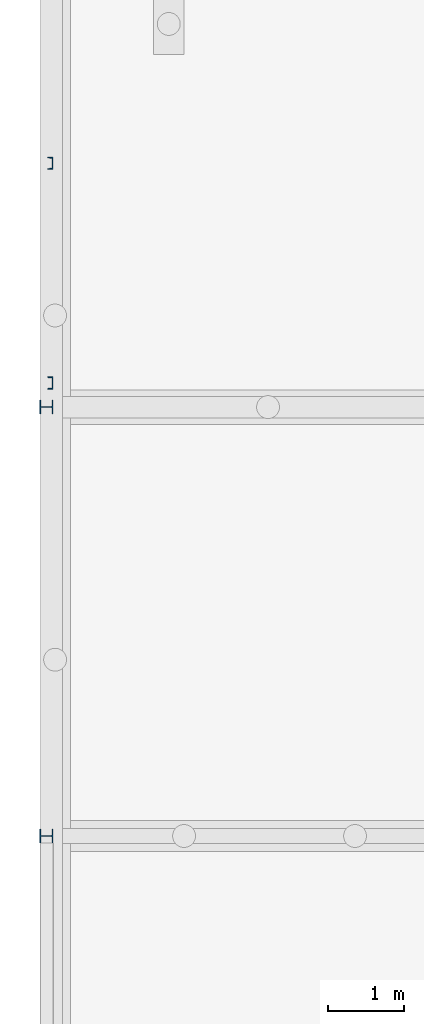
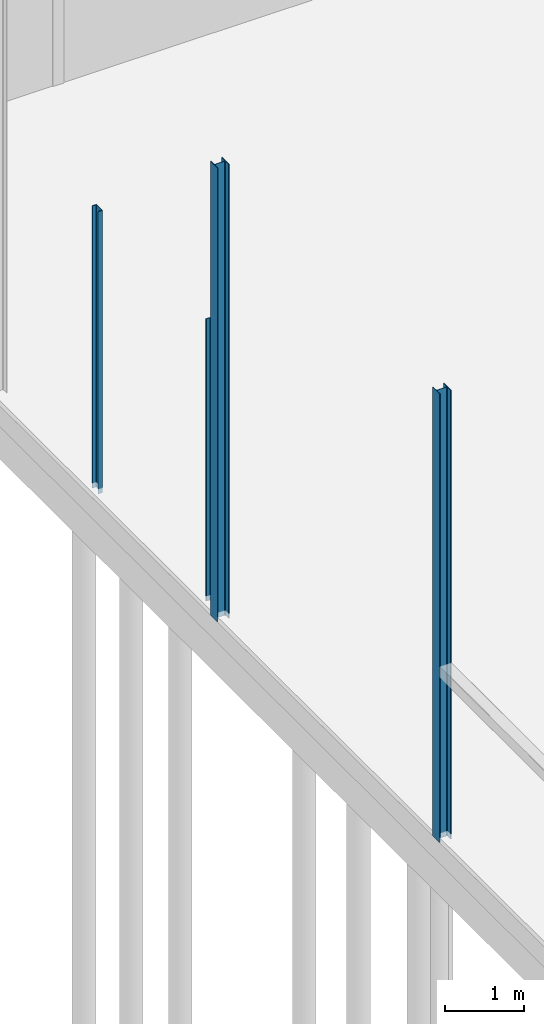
# One storey, part 5 of 17: 4 columns.
"""IFC2X3 building model written with IfcOpenShell, lengths in millimetres."""

import ifcopenshell
import ifcopenshell.guid

model = None  # the IFC model being written
_history = None  # IfcOwnerHistory: only IFC2X3 demands one
_inside = {}  # id of a spatial element -> (the spatial element, [elements in it])
_under = {}  # id of a project, library or spatial element -> (it, [spatial elements below it])
_declared = {}  # id of a project -> (the project, [libraries it declares])
_typed = {}  # id of a type object -> (the type object, [elements of that type])
_made_of = {}  # id of a material, layer set ... -> (it, [elements and type objects made of it])


def new_model(schema):
    """Start an empty IFC model of exactly this schema.

    Asked for "IFC4X3", IfcOpenShell would pick the latest addendum, in which some entities
    have other attributes; the version numbers below select the first issue.
    IFC2X3 requires an IfcOwnerHistory on every rooted entity: one is made here for all.
    """
    global model, _history
    if schema == "IFC4X3":
        model = ifcopenshell.file(schema_version=(4, 3, 0, 0))
    else:
        model = ifcopenshell.file(schema=schema)
    _inside.clear()
    _under.clear()
    _declared.clear()
    _typed.clear()
    _made_of.clear()
    _history = None
    if model.schema == "IFC2X3":
        org = make("IfcOrganization", Name="unknown")
        user = make(
            "IfcPersonAndOrganization",
            ThePerson=make("IfcPerson", FamilyName="unknown"),
            TheOrganization=org,
        )
        app = make(
            "IfcApplication",
            ApplicationDeveloper=org,
            Version="unknown",
            ApplicationFullName="unknown",
            ApplicationIdentifier="unknown",
        )
        _history = make(
            "IfcOwnerHistory",
            OwningUser=user,
            OwningApplication=app,
            ChangeAction="ADDED",
            CreationDate=0,
        )
    return model


def make(cls, **values):
    """One entity of the class cls with the attributes given. An attribute that is None is left unset."""
    return model.create_entity(
        cls, **{name: value for name, value in values.items() if value is not None}
    )


def entity(cls, *values):
    """Any entity or typed value of the class cls, its attributes in the order of the schema. None: left unset."""
    e = model.create_entity(cls)
    for i, value in enumerate(values):
        if value is not None:
            e[i] = value
    return e


def rooted(cls, **values):
    """An entity with a GlobalId (a new one), such as an element, a storey or a relation."""
    return make(cls, GlobalId=ifcopenshell.guid.new(), OwnerHistory=_history, **values)


def si_unit(unit_type, name, prefix=None):
    """IfcSIUnit, for example si_unit("LENGTHUNIT", "METRE", prefix="MILLI")."""
    return make("IfcSIUnit", UnitType=unit_type, Prefix=prefix, Name=name)


def converted_unit(unit_type, name, factor, base, dimensions=None, offset=None):
    """IfcConversionBasedUnit, such as the inch: factor (a typed value) times the base unit."""
    return make(
        "IfcConversionBasedUnit"
        if offset is None
        else "IfcConversionBasedUnitWithOffset",
        ConversionOffset=offset,
        Dimensions=None
        if dimensions is None
        else entity("IfcDimensionalExponents", *dimensions),
        UnitType=unit_type,
        Name=name,
        ConversionFactor=make(
            "IfcMeasureWithUnit", ValueComponent=factor, UnitComponent=base
        ),
    )


def derived_unit(unit_type, elements):
    """IfcDerivedUnit: a product of units, each with its exponent."""
    return make(
        "IfcDerivedUnit",
        Elements=[
            make("IfcDerivedUnitElement", Unit=unit, Exponent=power)
            for unit, power in elements
        ],
        UnitType=unit_type,
    )


def assignment(units):
    """IfcUnitAssignment: the units of a project."""
    return None if units is None else make("IfcUnitAssignment", Units=units)


def point(xyz):
    """IfcCartesianPoint."""
    return None if xyz is None else make("IfcCartesianPoint", Coordinates=xyz)


def direction(xyz):
    """IfcDirection."""
    return None if xyz is None else make("IfcDirection", DirectionRatios=xyz)


def frame(location, z_axis=None, x_axis=None):
    """IfcAxis2Placement3D, a coordinate frame: its origin and axes. An axis left out is left unset."""
    return make(
        "IfcAxis2Placement3D",
        Location=point(location),
        Axis=direction(z_axis),
        RefDirection=direction(x_axis),
    )


def frame_2d(location, x_axis=None):
    """IfcAxis2Placement2D, a coordinate frame in the plane: its origin and x axis."""
    return make(
        "IfcAxis2Placement2D", Location=point(location), RefDirection=direction(x_axis)
    )


def origin():
    """The frame at (0, 0, 0) with its axes left unset."""
    return frame((0.0, 0.0, 0.0))


def place(relative_to, where):
    """IfcLocalPlacement: puts the frame where relative to a parent placement (None: the world)."""
    return make(
        "IfcLocalPlacement", PlacementRelTo=relative_to, RelativePlacement=where
    )


def context(
    kind, dimensions, precision=None, world=None, true_north=None, identifier=None
):
    """IfcGeometricRepresentationContext, for example the 3D "Model" context."""
    return make(
        "IfcGeometricRepresentationContext",
        ContextIdentifier=identifier,
        ContextType=kind,
        CoordinateSpaceDimension=dimensions,
        Precision=precision,
        WorldCoordinateSystem=world,
        TrueNorth=true_north,
    )


def subcontext(parent, identifier, kind, view, scale=None):
    """IfcGeometricRepresentationSubContext, for example "Body" below "Model"."""
    return make(
        "IfcGeometricRepresentationSubContext",
        ContextIdentifier=identifier,
        ContextType=kind,
        ParentContext=parent,
        TargetScale=scale,
        TargetView=view,
    )


def project(units=None, contexts=None):
    """IfcProject with its units and contexts."""
    return rooted(
        "IfcProject",
        Name="project",
        RepresentationContexts=contexts,
        UnitsInContext=assignment(units),
    )


def spatial(cls, under=None, at=None, **own):
    """A site, building, storey or space (cls), placed at a placement, below another one or the project."""
    s = rooted(cls, ObjectPlacement=at, **own)
    if under is not None:
        _under.setdefault(under.id(), (under, []))[1].append(s)
    return s


def polyline(points):
    """IfcPolyline through the points."""
    return make("IfcPolyline", Points=[point(p) for p in points])


def circle_curve(where, radius):
    """IfcCircle in the frame where."""
    return make("IfcCircle", Position=where, Radius=radius)


def parameter(value):
    """IfcParameterValue: where a trimmed curve begins or ends, as a parameter of its basis curve."""
    return model.create_entity("IfcParameterValue", value)


def trimmed(basis, trim1, trim2, sense, master):
    """IfcTrimmedCurve: the piece of a basis curve between two trims."""
    return make(
        "IfcTrimmedCurve",
        BasisCurve=basis,
        Trim1=trim1,
        Trim2=trim2,
        SenseAgreement=sense,
        MasterRepresentation=master,
    )


def segment(curve, same_sense, transition):
    """IfcCompositeCurveSegment."""
    return make(
        "IfcCompositeCurveSegment",
        Transition=transition,
        SameSense=same_sense,
        ParentCurve=curve,
    )


def composite_curve(segments, self_intersect=None):
    """IfcCompositeCurve: segments joined end to end."""
    return make("IfcCompositeCurve", Segments=segments, SelfIntersect=self_intersect)


def outline(outer, holes=None, kind="AREA"):
    """IfcArbitraryClosedProfileDef: a profile drawn as a closed curve; with holes, ...WithVoids."""
    if holes is None:
        return make("IfcArbitraryClosedProfileDef", ProfileType=kind, OuterCurve=outer)
    return make(
        "IfcArbitraryProfileDefWithVoids",
        ProfileType=kind,
        OuterCurve=outer,
        InnerCurves=holes,
    )


def extrude(swept, where, along, depth):
    """IfcExtrudedAreaSolid: the profile swept, set in the frame where, extruded along a direction by depth."""
    return make(
        "IfcExtrudedAreaSolid",
        SweptArea=swept,
        Position=where,
        ExtrudedDirection=direction(along),
        Depth=depth,
    )


def shape(context_of_items, identifier, shape_type, items):
    """IfcShapeRepresentation: the items that make up one representation, for example the "Body"."""
    return make(
        "IfcShapeRepresentation",
        ContextOfItems=context_of_items,
        RepresentationIdentifier=identifier,
        RepresentationType=shape_type,
        Items=items,
    )


def source(mapping_origin, context_of_items, identifier, shape_type, items):
    """IfcRepresentationMap: a shape defined once, which mapped items show again and again."""
    return make(
        "IfcRepresentationMap",
        MappingOrigin=mapping_origin,
        MappedRepresentation=shape(context_of_items, identifier, shape_type, items),
    )


def transform(
    local_origin,
    x_axis=None,
    y_axis=None,
    z_axis=None,
    scale=None,
    scale2=None,
    scale3=None,
    uniform=True,
):
    """IfcCartesianTransformationOperator3D, or its non-uniform kind. x_axis, y_axis, z_axis: its Axis1, 2, 3."""
    if uniform:
        return make(
            "IfcCartesianTransformationOperator3D",
            Axis1=direction(x_axis),
            Axis2=direction(y_axis),
            LocalOrigin=point(local_origin),
            Scale=scale,
            Axis3=direction(z_axis),
        )
    return make(
        "IfcCartesianTransformationOperator3DnonUniform",
        Axis1=direction(x_axis),
        Axis2=direction(y_axis),
        LocalOrigin=point(local_origin),
        Scale=scale,
        Axis3=direction(z_axis),
        Scale2=scale2,
        Scale3=scale3,
    )


def mapped(mapping_source, mapping_target):
    """IfcMappedItem: shows the shape of a source again, moved by a transform."""
    return make(
        "IfcMappedItem", MappingSource=mapping_source, MappingTarget=mapping_target
    )


def material(Name=None, Category=None):
    """IfcMaterial."""
    return make("IfcMaterial", Name=Name, Category=Category)


def made_of(thing, what):
    """Note that an element or type object is made of a material, layer set ...; save() writes the relation."""
    if what is not None:
        _made_of.setdefault(what.id(), (what, []))[1].append(thing)
    return thing


def type_object(cls, material=None, **own):
    """A type object (cls), such as IfcWallType, which elements share."""
    return made_of(rooted(cls, **own), material)


def type_shapes(of_type, sources):
    """Give a type object the sources (RepresentationMaps) that its elements show as mapped items."""
    of_type.RepresentationMaps = sources


def element(
    cls,
    number,
    at=None,
    inside=None,
    cuts=None,
    type_object=None,
    material=None,
    context=None,
    identifier="Body",
    shape_type=None,
    held_by="IfcProductDefinitionShape",
    body=None,
    shapes=None,
    **own,
):
    """One element of the class cls, such as IfcWall. Its Tag is "e" and its number.

    at: its placement. inside: the storey or other place that contains it. cuts: it is an
    opening in that element (IfcRelVoidsElement). A single representation is given by context,
    identifier, shape_type and body (its items); several are given by shapes. held_by: the class
    of the entity that holds the representations. save() writes the other relations.
    """
    e = rooted(cls, Tag="e%d" % number, ObjectPlacement=at, **own)
    if body is not None:
        shapes = [shape(context, identifier, shape_type, body)]
    if shapes is not None:
        e.Representation = make(held_by, Representations=shapes)
    if inside is not None:
        _inside.setdefault(inside.id(), (inside, []))[1].append(e)
    if cuts is not None:
        rooted(
            "IfcRelVoidsElement", RelatingBuildingElement=cuts, RelatedOpeningElement=e
        )
    if type_object is not None:
        _typed.setdefault(type_object.id(), (type_object, []))[1].append(e)
    return made_of(e, material)


def aggregate(whole, parts):
    """IfcRelAggregates: a whole, such as a stair, and the parts it consists of."""
    return rooted("IfcRelAggregates", RelatingObject=whole, RelatedObjects=parts)


def save(model, path):
    """Write the relations noted so far, then the file.

    IfcRelAggregates (storeys below a building ...), IfcRelContainedInSpatialStructure (elements
    in a storey), IfcRelDefinesByType, IfcRelAssociatesMaterial and IfcRelDeclares: one each for
    every whole, place, type object, material and project.
    """
    for whole, parts in _under.values():
        aggregate(whole, parts)
    for where, things in _inside.values():
        rooted(
            "IfcRelContainedInSpatialStructure",
            RelatedElements=things,
            RelatingStructure=where,
        )
    for kind, things in _typed.values():
        rooted("IfcRelDefinesByType", RelatedObjects=things, RelatingType=kind)
    for what, things in _made_of.values():
        rooted("IfcRelAssociatesMaterial", RelatedObjects=things, RelatingMaterial=what)
    for by, libraries in _declared.values():
        rooted("IfcRelDeclares", RelatingContext=by, RelatedDefinitions=libraries)
    model.write(path)


model = new_model("IFC2X3")

# Units and contexts
model_context = context("Model", 3, precision=0.01, world=origin(), true_north=direction((6.123031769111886e-17, 1.0)))
plan_context = context("Plan", 3, precision=0.01, world=origin(), true_north=direction((6.123031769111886e-17, 1.0)))
body_context = subcontext(model_context, "Body", "Model", "MODEL_VIEW")
ifc_project = project(units=[si_unit("LENGTHUNIT", "METRE", prefix="MILLI"), si_unit("AREAUNIT", "SQUARE_METRE"), si_unit("VOLUMEUNIT", "CUBIC_METRE"), converted_unit("PLANEANGLEUNIT", "DEGREE", entity("IfcPlaneAngleMeasure", 0.017453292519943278), si_unit("PLANEANGLEUNIT", "RADIAN"), dimensions=[0, 0, 0, 0, 0, 0, 0]), si_unit("MASSUNIT", "GRAM", prefix="KILO"), derived_unit("MASSDENSITYUNIT", [(si_unit("MASSUNIT", "GRAM", prefix="KILO"), 1), (si_unit("LENGTHUNIT", "METRE"), -3)]), derived_unit("IONCONCENTRATIONUNIT", [(si_unit("MASSUNIT", "GRAM", prefix="KILO"), 1), (si_unit("LENGTHUNIT", "METRE"), -3)]), derived_unit("MOMENTOFINERTIAUNIT", [(si_unit("LENGTHUNIT", "METRE"), 4)]), si_unit("TIMEUNIT", "SECOND"), si_unit("FREQUENCYUNIT", "HERTZ"), si_unit("THERMODYNAMICTEMPERATUREUNIT", "DEGREE_CELSIUS"), derived_unit("THERMALTRANSMITTANCEUNIT", [(si_unit("MASSUNIT", "GRAM", prefix="KILO"), 1), (si_unit("THERMODYNAMICTEMPERATUREUNIT", "KELVIN"), -1), (si_unit("TIMEUNIT", "SECOND"), -3)]), derived_unit("THERMALCONDUCTANCEUNIT", [(si_unit("MASSUNIT", "GRAM", prefix="KILO"), 1), (si_unit("THERMODYNAMICTEMPERATUREUNIT", "KELVIN"), -1), (si_unit("TIMEUNIT", "SECOND"), -3), (si_unit("LENGTHUNIT", "METRE"), 1)]), derived_unit("VOLUMETRICFLOWRATEUNIT", [(si_unit("LENGTHUNIT", "METRE", prefix="DECI"), 3), (si_unit("TIMEUNIT", "SECOND"), -1)]), derived_unit("MASSFLOWRATEUNIT", [(si_unit("MASSUNIT", "GRAM", prefix="KILO"), 1), (si_unit("TIMEUNIT", "SECOND"), -1)]), derived_unit("ROTATIONALFREQUENCYUNIT", [(si_unit("TIMEUNIT", "SECOND"), -1)]), si_unit("ELECTRICCURRENTUNIT", "AMPERE"), si_unit("ELECTRICVOLTAGEUNIT", "VOLT"), si_unit("POWERUNIT", "WATT"), si_unit("FORCEUNIT", "NEWTON", prefix="KILO"), si_unit("ILLUMINANCEUNIT", "LUX"), si_unit("LUMINOUSFLUXUNIT", "LUMEN"), si_unit("LUMINOUSINTENSITYUNIT", "CANDELA"), si_unit("ENERGYUNIT", "JOULE"), derived_unit("USERDEFINED", [(si_unit("MASSUNIT", "GRAM", prefix="KILO"), -1), (si_unit("LENGTHUNIT", "METRE"), -2), (si_unit("TIMEUNIT", "SECOND"), 3), (si_unit("LUMINOUSFLUXUNIT", "LUMEN"), 1)]), derived_unit("USERDEFINED", [(si_unit("MASSUNIT", "GRAM", prefix="KILO"), 1), (si_unit("TIMEUNIT", "SECOND"), -3), (si_unit("LENGTHUNIT", "METRE"), 3), (si_unit("ELECTRICCURRENTUNIT", "AMPERE"), -2)]), derived_unit("SOUNDPOWERUNIT", [(si_unit("MASSUNIT", "GRAM", prefix="KILO"), 1), (si_unit("TIMEUNIT", "SECOND"), -3), (si_unit("LENGTHUNIT", "METRE"), 2)]), derived_unit("SOUNDPRESSUREUNIT", [(si_unit("MASSUNIT", "GRAM", prefix="KILO"), 1), (si_unit("LENGTHUNIT", "METRE"), -1), (si_unit("TIMEUNIT", "SECOND"), -2)]), derived_unit("LINEARVELOCITYUNIT", [(si_unit("LENGTHUNIT", "METRE"), 1), (si_unit("TIMEUNIT", "SECOND"), -1)]), si_unit("PRESSUREUNIT", "PASCAL"), derived_unit("USERDEFINED", [(si_unit("MASSUNIT", "GRAM", prefix="KILO"), 1), (si_unit("LENGTHUNIT", "METRE"), -2), (si_unit("TIMEUNIT", "SECOND"), -2)]), derived_unit("LINEARFORCEUNIT", [(si_unit("MASSUNIT", "GRAM", prefix="KILO"), 1), (si_unit("TIMEUNIT", "SECOND"), -2)]), derived_unit("PLANARFORCEUNIT", [(si_unit("MASSUNIT", "GRAM", prefix="KILO"), 1), (si_unit("LENGTHUNIT", "METRE"), -1), (si_unit("TIMEUNIT", "SECOND"), -2)]), derived_unit("SPECIFICHEATCAPACITYUNIT", [(si_unit("THERMODYNAMICTEMPERATUREUNIT", "KELVIN"), -1), (si_unit("LENGTHUNIT", "METRE"), 2), (si_unit("TIMEUNIT", "SECOND"), -2)]), derived_unit("HEATFLUXDENSITYUNIT", [(si_unit("MASSUNIT", "GRAM", prefix="KILO"), 1), (si_unit("TIMEUNIT", "SECOND"), -3)]), derived_unit("HEATINGVALUEUNIT", [(si_unit("LENGTHUNIT", "METRE"), 2), (si_unit("TIMEUNIT", "SECOND"), -2)]), derived_unit("VAPORPERMEABILITYUNIT", [(si_unit("LENGTHUNIT", "METRE"), -1), (si_unit("TIMEUNIT", "SECOND"), 1)]), derived_unit("DYNAMICVISCOSITYUNIT", [(si_unit("MASSUNIT", "GRAM", prefix="KILO"), 1), (si_unit("TIMEUNIT", "SECOND"), -1), (si_unit("LENGTHUNIT", "METRE"), -1)]), derived_unit("THERMALEXPANSIONCOEFFICIENTUNIT", [(si_unit("THERMODYNAMICTEMPERATUREUNIT", "KELVIN"), -1)]), derived_unit("MODULUSOFELASTICITYUNIT", [(si_unit("MASSUNIT", "GRAM", prefix="KILO"), 1), (si_unit("LENGTHUNIT", "METRE"), -1), (si_unit("TIMEUNIT", "SECOND"), -2)]), derived_unit("ISOTHERMALMOISTURECAPACITYUNIT", [(si_unit("MASSUNIT", "GRAM", prefix="KILO"), -1), (si_unit("LENGTHUNIT", "METRE"), 3)]), derived_unit("MOISTUREDIFFUSIVITYUNIT", [(si_unit("TIMEUNIT", "SECOND"), -1), (si_unit("LENGTHUNIT", "METRE"), 2)]), derived_unit("MASSPERLENGTHUNIT", [(si_unit("MASSUNIT", "GRAM", prefix="KILO"), 1), (si_unit("LENGTHUNIT", "METRE"), -1)]), derived_unit("THERMALRESISTANCEUNIT", [(si_unit("MASSUNIT", "GRAM", prefix="KILO"), -1), (si_unit("TIMEUNIT", "SECOND"), 3), (si_unit("THERMODYNAMICTEMPERATUREUNIT", "KELVIN"), 1)]), derived_unit("ACCELERATIONUNIT", [(si_unit("LENGTHUNIT", "METRE"), 1), (si_unit("TIMEUNIT", "SECOND"), -2)]), derived_unit("ANGULARVELOCITYUNIT", [(si_unit("TIMEUNIT", "SECOND"), -1), (si_unit("PLANEANGLEUNIT", "RADIAN"), 1)]), derived_unit("LINEARSTIFFNESSUNIT", [(si_unit("MASSUNIT", "GRAM", prefix="KILO"), 1), (si_unit("TIMEUNIT", "SECOND"), -2)]), derived_unit("WARPINGCONSTANTUNIT", [(si_unit("LENGTHUNIT", "METRE"), 6)]), derived_unit("LINEARMOMENTUNIT", [(si_unit("MASSUNIT", "GRAM", prefix="KILO"), 1), (si_unit("LENGTHUNIT", "METRE"), 1), (si_unit("TIMEUNIT", "SECOND"), -2)]), derived_unit("TORQUEUNIT", [(si_unit("MASSUNIT", "GRAM", prefix="KILO"), 1), (si_unit("LENGTHUNIT", "METRE"), 2), (si_unit("TIMEUNIT", "SECOND"), -2)])], contexts=[model_context, plan_context])

# Site, building, storey
site_placement = place(None, origin())
site = spatial("IfcSite", under=ifc_project, at=site_placement, Name="Default", CompositionType="ELEMENT")
building_placement = place(site_placement, origin())
building = spatial("IfcBuilding", under=site, at=building_placement, CompositionType="ELEMENT")
storey_placement = place(building_placement, origin())
storey = spatial("IfcBuildingStorey", under=building, at=storey_placement, Name="00 begane grond", CompositionType="ELEMENT", Elevation=0.0)

# Columns
ifc_material = material(Name="constructiestaal S235")
column_type_1 = type_object("IfcColumnType", Name="28_SCO_TLB_HEA kolom_dw:HE180A (S235)", PredefinedType="COLUMN", material=ifc_material)
shared_shape_1 = source(origin(), body_context, "Body", "SweptSolid", [
    extrude(outline(composite_curve([segment(polyline([(-90.0, -76.0), (-90.0, -85.49999999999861)]), True, "CONTINUOUS"), segment(polyline([(-90.0, -85.49999999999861), (90.0, -85.49999999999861)]), True, "CONTINUOUS"), segment(polyline([(90.0, -85.49999999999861), (90.0, -76.0)]), True, "CONTINUOUS"), segment(polyline([(90.0, -76.0), (18.0, -76.0)]), True, "CONTINUOUS"), segment(trimmed(circle_curve(frame_2d((18.0, -61.0), x_axis=(1.0, 0.0)), 15.0), [parameter(180.00000000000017)], [parameter(269.9999999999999)], True, "PARAMETER"), False, "CONTINUOUS"), segment(polyline([(3.0, -61.0), (3.0, 61.0)]), True, "CONTINUOUS"), segment(trimmed(circle_curve(frame_2d((18.0, 61.0), x_axis=(1.0, 0.0)), 15.0), [parameter(90.00000000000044)], [parameter(180.0000000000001)], True, "PARAMETER"), False, "CONTINUOUS"), segment(polyline([(18.0, 76.0), (90.0, 76.0)]), True, "CONTINUOUS"), segment(polyline([(90.0, 76.0), (90.0, 85.49999999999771)]), True, "CONTINUOUS"), segment(polyline([(90.0, 85.49999999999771), (-90.0, 85.49999999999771)]), True, "CONTINUOUS"), segment(polyline([(-90.0, 85.49999999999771), (-90.0, 76.0)]), True, "CONTINUOUS"), segment(polyline([(-90.0, 76.0), (-18.0, 76.0)]), True, "CONTINUOUS"), segment(trimmed(circle_curve(frame_2d((-18.0, 61.0), x_axis=(1.0, 0.0)), 15.0), [parameter(0.0)], [parameter(90.00000000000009)], True, "PARAMETER"), False, "CONTINUOUS"), segment(polyline([(-3.0, 61.0), (-3.0, -61.0)]), True, "CONTINUOUS"), segment(trimmed(circle_curve(frame_2d((-18.0, -61.0), x_axis=(1.0, 0.0)), 15.0), [parameter(269.9999999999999)], [parameter(0.0)], True, "PARAMETER"), False, "CONTINUOUS"), segment(polyline([(-18.0, -76.0), (-90.0, -76.0)]), True, "CONTINUOUS")], self_intersect=False)), frame((0.0, 0.0, -150.0), z_axis=(0.0, 0.0, -1.0), x_axis=(-1.0, 0.0, 0.0)), (0.0, 0.0, -1.0), 6935.0),
])
type_shapes(column_type_1, [shared_shape_1])
column_1_placement = place(storey_placement, frame((34151.692937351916, 21872.67034020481, 0.0), z_axis=(0.0, 0.0, 1.0), x_axis=(0.0, -1.0, 0.0)))
element("IfcColumn", 1, at=column_1_placement, inside=storey, type_object=column_type_1, material=ifc_material, Name="28_SCO_TLB_HEA kolom_dw:HE180A (S235)", ObjectType="28_SCO_TLB_HEA kolom_dw:HE180A (S235)", context=body_context, shape_type="MappedRepresentation", body=[
    mapped(shared_shape_1, transform((0.0, 0.0, 0.0), scale=1.0)),
])
column_type_2 = type_object("IfcColumnType", Name="28_SCO_TLB_HEA kolom_dw:HE180A (S235)", PredefinedType="COLUMN", material=ifc_material)
shared_shape_2 = source(origin(), body_context, "Body", "SweptSolid", [
    extrude(outline(composite_curve([segment(polyline([(-90.0, -76.0), (-90.0, -85.49999999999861)]), True, "CONTINUOUS"), segment(polyline([(-90.0, -85.49999999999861), (90.0, -85.49999999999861)]), True, "CONTINUOUS"), segment(polyline([(90.0, -85.49999999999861), (90.0, -76.0)]), True, "CONTINUOUS"), segment(polyline([(90.0, -76.0), (18.0, -76.0)]), True, "CONTINUOUS"), segment(trimmed(circle_curve(frame_2d((18.0, -61.0), x_axis=(1.0, 0.0)), 15.0), [parameter(180.00000000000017)], [parameter(269.9999999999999)], True, "PARAMETER"), False, "CONTINUOUS"), segment(polyline([(3.0, -61.0), (3.0, 61.0)]), True, "CONTINUOUS"), segment(trimmed(circle_curve(frame_2d((18.0, 61.0), x_axis=(1.0, 0.0)), 15.0), [parameter(90.00000000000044)], [parameter(180.0000000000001)], True, "PARAMETER"), False, "CONTINUOUS"), segment(polyline([(18.0, 76.0), (90.0, 76.0)]), True, "CONTINUOUS"), segment(polyline([(90.0, 76.0), (90.0, 85.49999999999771)]), True, "CONTINUOUS"), segment(polyline([(90.0, 85.49999999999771), (-90.0, 85.49999999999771)]), True, "CONTINUOUS"), segment(polyline([(-90.0, 85.49999999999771), (-90.0, 76.0)]), True, "CONTINUOUS"), segment(polyline([(-90.0, 76.0), (-18.0, 76.0)]), True, "CONTINUOUS"), segment(trimmed(circle_curve(frame_2d((-18.0, 61.0), x_axis=(1.0, 0.0)), 15.0), [parameter(0.0)], [parameter(90.00000000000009)], True, "PARAMETER"), False, "CONTINUOUS"), segment(polyline([(-3.0, 61.0), (-3.0, -61.0)]), True, "CONTINUOUS"), segment(trimmed(circle_curve(frame_2d((-18.0, -61.0), x_axis=(1.0, 0.0)), 15.0), [parameter(269.9999999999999)], [parameter(0.0)], True, "PARAMETER"), False, "CONTINUOUS"), segment(polyline([(-18.0, -76.0), (-90.0, -76.0)]), True, "CONTINUOUS")], self_intersect=False)), frame((0.0, 0.0, -150.0), z_axis=(0.0, 0.0, -1.0), x_axis=(-1.0, 0.0, 0.0)), (0.0, 0.0, -1.0), 7016.999999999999),
])
type_shapes(column_type_2, [shared_shape_2])
column_2_placement = place(storey_placement, frame((34151.69293735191, 27492.67034020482, 0.0), z_axis=(0.0, 0.0, 1.0), x_axis=(0.0, -1.0, 0.0)))
element("IfcColumn", 2, at=column_2_placement, inside=storey, type_object=column_type_2, material=ifc_material, Name="28_SCO_TLB_HEA kolom_dw:HE180A (S235)", ObjectType="28_SCO_TLB_HEA kolom_dw:HE180A (S235)", context=body_context, shape_type="MappedRepresentation", body=[
    mapped(shared_shape_2, transform((0.0, 0.0, 0.0), scale=1.0)),
])
column_type_3 = type_object("IfcColumnType", Name="28_SCO_TLB_UNP kolom_dw:UNP160 (S235)", PredefinedType="COLUMN", material=ifc_material)
shared_shape_3 = source(origin(), body_context, "Body", "SweptSolid", [
    extrude(outline(composite_curve([segment(polyline([(-35.74999999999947, -79.93760274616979), (29.24999999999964, -79.93760274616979)]), True, "CONTINUOUS"), segment(polyline([(29.24999999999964, -79.93760274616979), (29.24999999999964, -75.21770177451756)]), True, "CONTINUOUS"), segment(trimmed(circle_curve(frame_2d((23.749999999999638, -75.21770177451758), x_axis=(1.0, 0.0)), 5.5), [parameter(1.5266662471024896e-13)], [parameter(90.00000000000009)], True, "PARAMETER"), True, "CONTINUOUS"), segment(polyline([(23.749999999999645, -69.71770177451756), (-18.250000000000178, -67.32541273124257)]), True, "CONTINUOUS"), segment(trimmed(circle_curve(frame_2d((-18.250000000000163, -57.32541273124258), x_axis=(1.0, 0.0)), 10.0), [parameter(179.9999999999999)], [parameter(269.99999999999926)], True, "PARAMETER"), False, "CONTINUOUS"), segment(polyline([(-28.25000000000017, -57.32541273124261), (-28.25000000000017, 56.81086063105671)]), True, "CONTINUOUS"), segment(trimmed(circle_curve(frame_2d((-18.250000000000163, 56.81086063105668), x_axis=(1.0, 0.0)), 10.0), [parameter(90.00000000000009)], [parameter(180.0)], True, "PARAMETER"), False, "CONTINUOUS"), segment(polyline([(-18.250000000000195, 66.81086063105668), (23.750000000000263, 70.10745936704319)]), True, "CONTINUOUS"), segment(trimmed(circle_curve(frame_2d((23.750000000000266, 75.60745936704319), x_axis=(1.0, 0.0)), 5.5), [parameter(269.9999999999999)], [parameter(0.0)], True, "PARAMETER"), True, "CONTINUOUS"), segment(polyline([(29.250000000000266, 75.60745936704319), (29.250000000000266, 80.06239725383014)]), True, "CONTINUOUS"), segment(polyline([(29.250000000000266, 80.06239725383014), (-35.74999999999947, 80.06239725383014)]), True, "CONTINUOUS"), segment(polyline([(-35.74999999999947, 80.06239725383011), (-35.74999999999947, -79.93760274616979)]), True, "CONTINUOUS")], self_intersect=False)), frame((11.749999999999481, 52.062397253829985, -150.0), z_axis=(0.0, 0.0, 1.0), x_axis=(-1.0, 0.0, 0.0)), (0.0, 0.0, 1.0), 4360.000000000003),
])
type_shapes(column_type_3, [shared_shape_3])
for number, where in (
    (3, (34189.69293735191, 27755.670340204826, 0.0)),
    (4, (34189.69293735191, 30635.670340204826, 0.0)),
):
    element("IfcColumn", number, at=place(storey_placement, frame(where)), inside=storey, type_object=column_type_3, material=ifc_material, Name="28_SCO_TLB_UNP kolom_dw:UNP160 (S235)", ObjectType="28_SCO_TLB_UNP kolom_dw:UNP160 (S235)", context=body_context, shape_type="MappedRepresentation", body=[
        mapped(shared_shape_3, transform((0.0, 0.0, 0.0), scale=1.0)),
    ])

save(model, "model.ifc")
